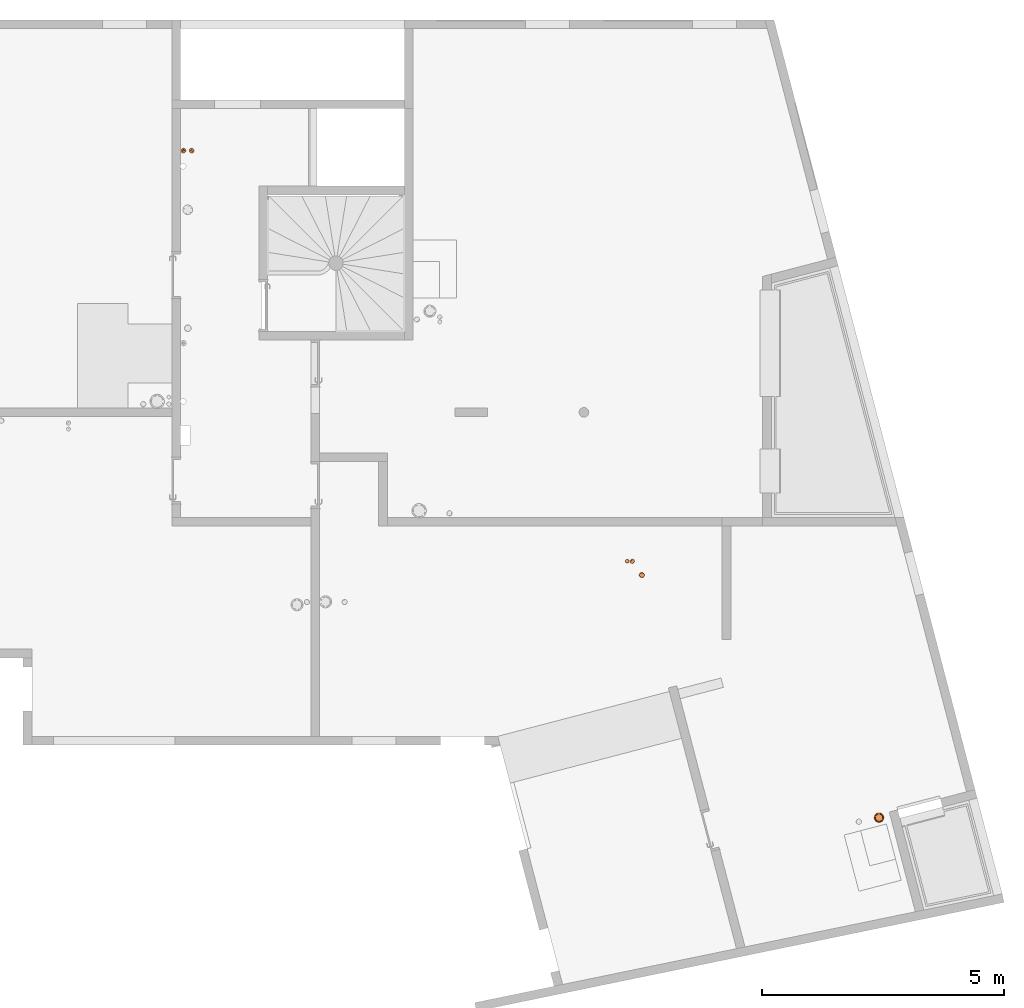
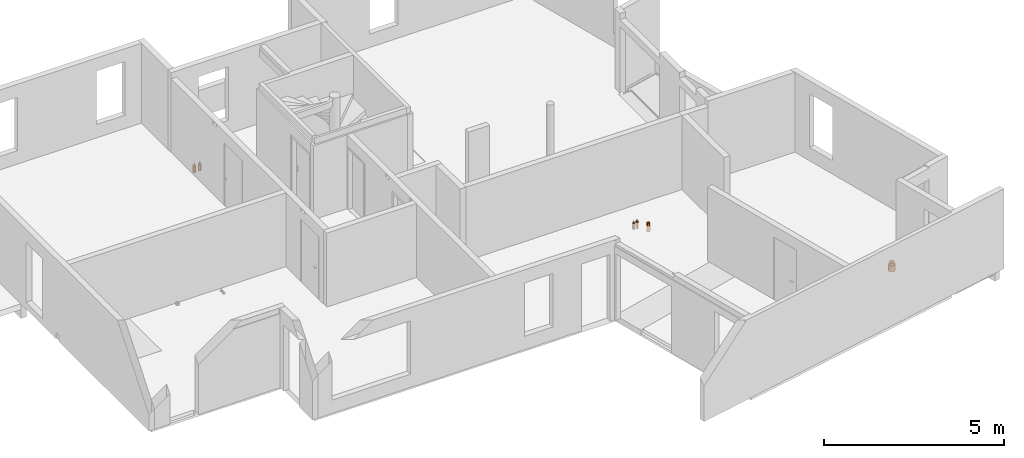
# One storey, part 23 of 24: 6 proxies.
"""IFC2X3 building model written with IfcOpenShell, lengths in centimetres."""

from ifc_helpers import new_model, entity, si_unit, converted_unit, derived_unit, direction, frame, frame_2d, origin, place, context, subcontext, project, spatial, circle, hollow_circle, extrude, source, transform, mapped, material, type_object, type_shapes, element, save


model = new_model("IFC2X3")

# Units and contexts
model_context = context("Model", 3, precision=0.001, world=origin(), true_north=direction((6.12303176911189e-17, 1.0)))
body_context = subcontext(model_context, "Body", "Model", "MODEL_VIEW")
ifc_project = project(units=[si_unit("LENGTHUNIT", "METRE", prefix="CENTI"), si_unit("AREAUNIT", "SQUARE_METRE"), si_unit("VOLUMEUNIT", "CUBIC_METRE"), converted_unit("PLANEANGLEUNIT", "DEGREE", entity("IfcRatioMeasure", 0.0174532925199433), si_unit("PLANEANGLEUNIT", "RADIAN"), dimensions=[0, 0, 0, 0, 0, 0, 0]), si_unit("MASSUNIT", "GRAM", prefix="KILO"), derived_unit("MASSDENSITYUNIT", [(si_unit("MASSUNIT", "GRAM", prefix="KILO"), 1), (si_unit("LENGTHUNIT", "METRE"), -3)]), si_unit("TIMEUNIT", "SECOND"), si_unit("FREQUENCYUNIT", "HERTZ"), si_unit("THERMODYNAMICTEMPERATUREUNIT", "DEGREE_CELSIUS"), derived_unit("THERMALTRANSMITTANCEUNIT", [(si_unit("MASSUNIT", "GRAM", prefix="KILO"), 1), (si_unit("THERMODYNAMICTEMPERATUREUNIT", "KELVIN"), -1), (si_unit("TIMEUNIT", "SECOND"), -3)]), derived_unit("VOLUMETRICFLOWRATEUNIT", [(si_unit("LENGTHUNIT", "METRE"), 3), (si_unit("TIMEUNIT", "SECOND"), -1)]), si_unit("ELECTRICCURRENTUNIT", "AMPERE"), si_unit("ELECTRICVOLTAGEUNIT", "VOLT"), si_unit("POWERUNIT", "WATT"), si_unit("FORCEUNIT", "NEWTON"), si_unit("ILLUMINANCEUNIT", "LUX"), si_unit("LUMINOUSFLUXUNIT", "LUMEN"), si_unit("LUMINOUSINTENSITYUNIT", "CANDELA"), derived_unit("USERDEFINED", [(si_unit("MASSUNIT", "GRAM", prefix="KILO"), -1), (si_unit("LENGTHUNIT", "METRE"), -2), (si_unit("TIMEUNIT", "SECOND"), 3), (si_unit("LUMINOUSFLUXUNIT", "LUMEN"), 1)]), derived_unit("LINEARVELOCITYUNIT", [(si_unit("LENGTHUNIT", "METRE"), 1), (si_unit("TIMEUNIT", "SECOND"), -1)]), si_unit("PRESSUREUNIT", "PASCAL"), derived_unit("USERDEFINED", [(si_unit("LENGTHUNIT", "METRE"), -2), (si_unit("MASSUNIT", "GRAM", prefix="KILO"), 1), (si_unit("TIMEUNIT", "SECOND"), -2)])], contexts=[model_context])

# Site, building, storey
site_placement = place(None, origin())
site = spatial("IfcSite", under=ifc_project, at=site_placement, Name="Default", CompositionType="ELEMENT")
building_placement = place(site_placement, origin())
building = spatial("IfcBuilding", under=site, at=building_placement, Name="CAGE 03", CompositionType="ELEMENT")
storey_placement = place(building_placement, frame((0.0, 0.0, 880.0)))
storey = spatial("IfcBuildingStorey", under=building, at=storey_placement, Name="R+3", CompositionType="ELEMENT", Elevation=880.0)

# Proxies
ifc_material_1 = material(Name="Conduit EU")
building_element_proxy_type_1 = type_object("IfcBuildingElementProxyType", Name="CFO125 P110", PredefinedType="NOTDEFINED", material=ifc_material_1)
shared_shape_1 = source(origin(), body_context, "Body", "SweptSolid", [
    extrude(circle(Radius=5.5, at=frame_2d((0.0, -8.88549515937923e-15), x_axis=(1.0, 0.0))), frame((0.0, 0.0, -21.0)), (0.0, 0.0, 1.0), 21.0),
    extrude(hollow_circle(Radius=5.0, WallThickness=0.25, at=frame_2d((0.0, -8.07772287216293e-15), x_axis=(1.0, 0.0))), frame((0.0, 0.0, -21.0)), (0.0, 0.0, 1.0), 28.5),
])
type_shapes(building_element_proxy_type_1, [shared_shape_1])
proxy_1_placement = place(storey_placement, frame((10980.8264794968, 4147.56023530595, -4.4699953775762e-07)))
element("IfcBuildingElementProxy", 1, at=proxy_1_placement, inside=storey, type_object=building_element_proxy_type_1, material=ifc_material_1, Name="Galette - Résa - PVC2:CFO125 P110", ObjectType="CFO125 P110", context=body_context, shape_type="MappedRepresentation", body=[
    mapped(shared_shape_1, transform((0.0, 0.0, 0.0), scale=1.0)),
])
ifc_material_2 = material(Name="Circuit ECS Retour")
building_element_proxy_type_2 = type_object("IfcBuildingElementProxyType", Name="CFO100 P80", PredefinedType="NOTDEFINED", material=ifc_material_2)
shared_shape_2 = source(origin(), body_context, "Body", "SweptSolid", [
    extrude(circle(Radius=4.0, at=frame_2d((0.0, -6.46217829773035e-15), x_axis=(1.0, 0.0))), frame((0.0, 0.0, -21.0)), (0.0, 0.0, 1.0), 21.0),
    extrude(hollow_circle(Radius=1.0, WallThickness=0.0500000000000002, at=frame_2d((0.0, -1.61554457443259e-15), x_axis=(1.0, 0.0))), frame((0.0, 0.0, -21.0)), (0.0, 0.0, 1.0), 28.5),
])
type_shapes(building_element_proxy_type_2, [shared_shape_2])
proxy_2_placement = place(storey_placement, frame((10950.5781146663, 4176.05132587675, -4.4699953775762e-07)))
element("IfcBuildingElementProxy", 2, at=proxy_2_placement, inside=storey, type_object=building_element_proxy_type_2, material=ifc_material_2, Name="Galette - Résa - PVC2:CFO100 P80", ObjectType="CFO100 P80", context=body_context, shape_type="MappedRepresentation", body=[
    mapped(shared_shape_2, transform((0.0, 0.0, 0.0), scale=1.0)),
])
ifc_material_3 = material(Name="Circuit ECS Aller")
building_element_proxy_type_3 = type_object("IfcBuildingElementProxyType", Name="CFO100 P90", PredefinedType="NOTDEFINED", material=ifc_material_3)
shared_shape_3 = source(origin(), body_context, "Body", "SweptSolid", [
    extrude(circle(Radius=4.5, at=frame_2d((0.0, -7.26995058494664e-15), x_axis=(1.0, 0.0))), frame((0.0, 0.0, -21.0)), (0.0, 0.0, 1.0), 21.0),
    extrude(hollow_circle(Radius=1.6, WallThickness=0.05, at=frame_2d((0.0, -2.58487131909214e-15), x_axis=(1.0, 0.0))), frame((0.0, 0.0, -21.0)), (0.0, 0.0, 1.0), 28.5),
])
type_shapes(building_element_proxy_type_3, [shared_shape_3])
proxy_3_placement = place(storey_placement, frame((10961.1967817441, 4176.05132587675, -4.4699953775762e-07)))
element("IfcBuildingElementProxy", 3, at=proxy_3_placement, inside=storey, type_object=building_element_proxy_type_3, material=ifc_material_3, Name="Galette - Résa - PVC2:CFO100 P90", ObjectType="CFO100 P90", context=body_context, shape_type="MappedRepresentation", body=[
    mapped(shared_shape_3, transform((0.0, 0.0, 0.0), scale=1.0)),
])
ifc_material_4 = material(Name="Conduit VMC")
building_element_proxy_type_4 = type_object("IfcBuildingElementProxyType", Name="CFO200 P170", PredefinedType="NOTDEFINED", material=ifc_material_4)
shared_shape_4 = source(origin(), body_context, "Body", "SweptSolid", [
    extrude(circle(Radius=10.0, at=frame_2d((0.0, -1.61554457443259e-14), x_axis=(1.0, 0.0))), frame((0.0, 0.0, -21.0)), (0.0, 0.0, 1.0), 21.0),
    extrude(hollow_circle(Radius=8.0, WallThickness=0.500000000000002, at=frame_2d((0.0, -1.29243565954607e-14), x_axis=(1.0, 0.0))), frame((0.0, 0.0, -21.0)), (0.0, 0.0, 1.0), 28.5),
])
type_shapes(building_element_proxy_type_4, [shared_shape_4])
proxy_4_placement = place(storey_placement, frame((11470.6360049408, 3646.5871587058, -4.4699953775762e-07), z_axis=(0.0, 0.0, 1.0), x_axis=(0.96754998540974, 0.252679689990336, 0.0)))
element("IfcBuildingElementProxy", 4, at=proxy_4_placement, inside=storey, type_object=building_element_proxy_type_4, material=ifc_material_4, Name="Galette - Résa - PVC2:CFO200 P170", ObjectType="CFO200 P170", context=body_context, shape_type="MappedRepresentation", body=[
    mapped(shared_shape_4, transform((0.0, 0.0, 0.0), scale=1.0)),
])
ifc_material_5 = material(Name="Circuit CHF Aller")
building_element_proxy_type_5 = type_object("IfcBuildingElementProxyType", Name="CHF Aller 41", PredefinedType="NOTDEFINED", material=ifc_material_5)
shared_shape_5 = source(origin(), body_context, "Body", "SweptSolid", [
    extrude(circle(Radius=5.0, at=frame_2d((0.0, -8.07772287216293e-15), x_axis=(1.0, 0.0))), frame((0.0, 0.0, -21.0)), (0.0, 0.0, 1.0), 21.0),
    extrude(hollow_circle(Radius=2.0, WallThickness=0.4, at=frame_2d((0.0, -3.23108914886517e-15), x_axis=(1.0, 0.0))), frame((0.0, 0.0, -21.0)), (0.0, 0.0, 1.0), 28.5),
])
type_shapes(building_element_proxy_type_5, [shared_shape_5])
proxy_5_placement = place(storey_placement, frame((10034.3670007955, 5023.89084226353, -4.4699953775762e-07)))
element("IfcBuildingElementProxy", 5, at=proxy_5_placement, inside=storey, type_object=building_element_proxy_type_5, material=ifc_material_5, Name="Galette - Résa - PVC2:CHF Aller 41", ObjectType="CHF Aller 41", context=body_context, shape_type="MappedRepresentation", body=[
    mapped(shared_shape_5, transform((0.0, 0.0, 0.0), scale=1.0)),
])
ifc_material_6 = material(Name="Circuit CHF Retour")
building_element_proxy_type_6 = type_object("IfcBuildingElementProxyType", Name="CHF Retour 43", PredefinedType="NOTDEFINED", material=ifc_material_6)
shared_shape_6 = source(origin(), body_context, "Body", "SweptSolid", [
    extrude(circle(Radius=5.0, at=frame_2d((0.0, -8.07772287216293e-15), x_axis=(1.0, 0.0))), frame((0.0, 0.0, -21.0)), (0.0, 0.0, 1.0), 21.0),
    extrude(hollow_circle(Radius=2.0, WallThickness=0.4, at=frame_2d((0.0, -3.23108914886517e-15), x_axis=(1.0, 0.0))), frame((0.0, 0.0, -21.0)), (0.0, 0.0, 1.0), 28.5),
])
type_shapes(building_element_proxy_type_6, [shared_shape_6])
proxy_6_placement = place(storey_placement, frame((10051.3670007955, 5023.89084226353, -4.4699953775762e-07)))
element("IfcBuildingElementProxy", 6, at=proxy_6_placement, inside=storey, type_object=building_element_proxy_type_6, material=ifc_material_6, Name="Galette - Résa - PVC2:CHF Retour 43", ObjectType="CHF Retour 43", context=body_context, shape_type="MappedRepresentation", body=[
    mapped(shared_shape_6, transform((0.0, 0.0, 0.0), scale=1.0)),
])

save(model, "model.ifc")
